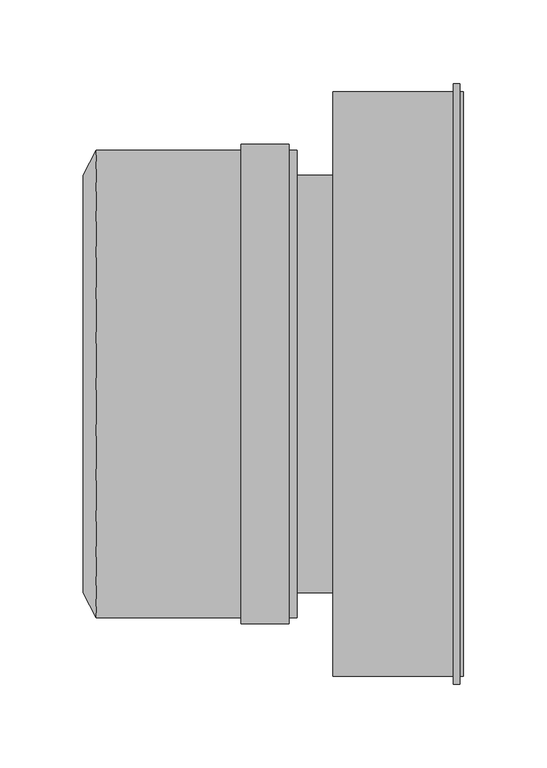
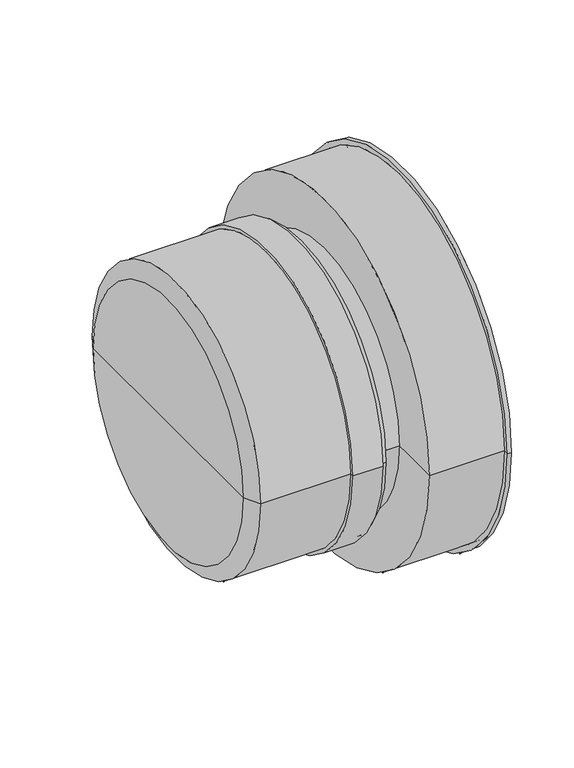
"""IFC4 building model written with IfcOpenShell, lengths in millimetres: pipe fitting geometry, pf_KGUS : pf_KGUS."""

from ifc_helpers import new_model, si_unit, point, frame, origin, origin_2d, place, context, project, spatial, polyline, circle_curve, trimmed, segment, composite_curve, outline, extrude, source, transform, mapped, element, save
from ifc_brep_helpers import plane_surface, cylinder_surface, revolved_surface, advanced_brep


def pipe_fitting_e6965fa8(model_context):
    return source(origin(), model_context, "Body", "SolidModel", [
        advanced_brep(
        [(-149.7, 125.0, 0.0), (-149.7, -125.0, 0.0), (-142.0, -140.1, 0.0), (-142.0, 140.1, 0.0), (-149.7, 0.0, 0.0), (-21.7, 140.1, 0.0), (-21.7, -140.1, 0.0), (-21.7, -125.0, 0.0), (-21.7, 125.0, 0.0), (-26.5, 140.1, 0.0), (-26.5, -140.1, 0.0), (-26.5, 143.5, 0.0), (-26.5, -143.5, 0.0), (-55.2, 143.5, 0.0), (-55.2, -143.5, 0.0), (-55.2, 140.1, 0.0), (-55.2, -140.1, 0.0), (-142.0, 125.0, 0.0), (-142.0, -125.0, 0.0), (-142.0, 0.0, 0.0)],
        [
            (0, 1, circle_curve(frame((-149.7, 0.0, 0.0), z_axis=(1.0, 0.0, 0.0), x_axis=(0.0, -1.0, 0.0)), 125.0)),
            (1, 2),
            (2, 3, circle_curve(frame((-142.0, 0.0, 0.0), z_axis=(-1.0, 0.0, 0.0), x_axis=(0.0, -1.0, 0.0)), 140.1)),
            (3, 0),
            (1, 0, circle_curve(frame((-149.7, 0.0, 0.0), z_axis=(1.0, 0.0, 0.0), x_axis=(0.0, -1.0, 0.0)), 125.0)),
            (3, 2, circle_curve(frame((-142.0, 0.0, 0.0), z_axis=(-1.0, 0.0, 0.0), x_axis=(0.0, -1.0, 0.0)), 140.1)),
            (4, 1),
            (0, 4),
            (5, 6, circle_curve(frame((-21.7, 0.0, 0.0), z_axis=(1.0, 0.0, 0.0), x_axis=(0.0, -1.0, 0.0)), 140.1)),
            (6, 7),
            (7, 8, circle_curve(frame((-21.7, 0.0, 0.0), z_axis=(-1.0, 0.0, 0.0), x_axis=(0.0, -1.0, 0.0)), 125.0)),
            (8, 5),
            (6, 5, circle_curve(frame((-21.7, 0.0, 0.0), z_axis=(1.0, 0.0, 0.0), x_axis=(0.0, -1.0, 0.0)), 140.1)),
            (8, 7, circle_curve(frame((-21.7, 0.0, 0.0), z_axis=(-1.0, 0.0, 0.0), x_axis=(0.0, -1.0, 0.0)), 125.0)),
            (9, 10, circle_curve(frame((-26.5, 0.0, 0.0), z_axis=(1.0, 0.0, 0.0), x_axis=(0.0, -1.0, 0.0)), 140.1)),
            (10, 6),
            (5, 9),
            (10, 9, circle_curve(frame((-26.5, 0.0, 0.0), z_axis=(1.0, 0.0, 0.0), x_axis=(0.0, -1.0, 0.0)), 140.1)),
            (11, 12, circle_curve(frame((-26.5, 0.0, 0.0), z_axis=(1.0, 0.0, 0.0), x_axis=(0.0, -1.0, 0.0)), 143.5)),
            (12, 10),
            (9, 11),
            (12, 11, circle_curve(frame((-26.5, 0.0, 0.0), z_axis=(1.0, 0.0, 0.0), x_axis=(0.0, -1.0, 0.0)), 143.5)),
            (13, 14, circle_curve(frame((-55.2, 0.0, 0.0), z_axis=(1.0, 0.0, 0.0), x_axis=(0.0, -1.0, 0.0)), 143.5)),
            (14, 12),
            (11, 13),
            (14, 13, circle_curve(frame((-55.2, 0.0, 0.0), z_axis=(1.0, 0.0, 0.0), x_axis=(0.0, -1.0, 0.0)), 143.5)),
            (15, 16, circle_curve(frame((-55.2, 0.0, 0.0), z_axis=(1.0, 0.0, 0.0), x_axis=(0.0, -1.0, 0.0)), 140.1)),
            (16, 14),
            (13, 15),
            (16, 15, circle_curve(frame((-55.2, 0.0, 0.0), z_axis=(1.0, 0.0, 0.0), x_axis=(0.0, -1.0, 0.0)), 140.1)),
            (2, 16),
            (15, 3),
            (17, 18, circle_curve(frame((-142.0, 0.0, 0.0), z_axis=(1.0, 0.0, 0.0), x_axis=(0.0, -1.0, 0.0)), 125.0)),
            (18, 19),
            (19, 17),
            (18, 17, circle_curve(frame((-142.0, 0.0, 0.0), z_axis=(1.0, 0.0, 0.0), x_axis=(0.0, -1.0, 0.0)), 125.0)),
            (7, 18),
            (17, 8),
        ],
        [
            revolved_surface(polyline([(-142.0, -140.1, 0.0), (-149.7, -125.0, 0.0)]), (-149.7, 0.0, 0.0), (-1.0, 0.0, 0.0)),
            plane_surface(frame((-149.7, 0.0, 0.0), z_axis=(-1.0, 0.0, 0.0), x_axis=(0.0, -1.0, 0.0))),
            plane_surface(frame((-21.7, 0.0, 0.0), z_axis=(1.0, 0.0, 0.0), x_axis=(0.0, -1.0, 0.0))),
            cylinder_surface(frame((-149.7, 0.0, 0.0), z_axis=(-1.0, 0.0, 0.0), x_axis=(0.0, -1.0, 0.0)), 140.1),
            plane_surface(frame((-26.5, 0.0, 0.0), z_axis=(1.0, 0.0, 0.0), x_axis=(0.0, -1.0, 0.0))),
            cylinder_surface(frame((-149.7, 0.0, 0.0), z_axis=(-1.0, 0.0, 0.0), x_axis=(0.0, -1.0, 0.0)), 143.5),
            plane_surface(frame((-55.2, 0.0, 0.0), z_axis=(-1.0, 0.0, 0.0), x_axis=(0.0, -1.0, 0.0))),
            plane_surface(frame((-142.0, 0.0, 0.0), z_axis=(1.0, 0.0, 0.0), x_axis=(0.0, -1.0, 0.0))),
            revolved_surface(polyline([(-142.0, -125.0, 0.0), (-21.700000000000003, -125.0, 0.0)]), (-149.7, 0.0, 0.0), (-1.0, 0.0, 0.0)),
        ],
        [
            (0, [[1, 2, 3, 4]]),
            (0, [[5, -4, 6, -2]]),
            (1, [[7, -1, 8]]),
            (1, [[-8, -5, -7]]),
            (2, [[9, 10, 11, 12]]),
            (2, [[13, -12, 14, -10]]),
            (3, [[15, 16, -9, 17]]),
            (3, [[18, -17, -13, -16]]),
            (4, [[19, 20, -15, 21]]),
            (4, [[22, -21, -18, -20]]),
            (5, [[23, 24, -19, 25]]),
            (5, [[26, -25, -22, -24]]),
            (6, [[27, 28, -23, 29]]),
            (6, [[30, -29, -26, -28]]),
            (3, [[-3, 31, -27, 32]]),
            (3, [[-6, -32, -30, -31]]),
            (7, [[33, 34, 35]]),
            (7, [[36, -35, -34]]),
            (8, [[-11, 37, -33, 38]]),
            (8, [[-14, -38, -36, -37]]),
        ],
    ),
        extrude(outline(composite_curve([segment(trimmed(circle_curve(origin_2d(), 125.0), [point((-125.0, 0.0))], [point((125.0, 0.0))], False, "CARTESIAN"), True, "CONTINUOUS"), segment(trimmed(circle_curve(origin_2d(), 125.0), [point((125.0, 0.0))], [point((-125.0, 0.0))], False, "CARTESIAN"), True, "CONTINUOUS")], self_intersect=False)), frame((-21.7, 0.0, 0.0), z_axis=(1.0, 0.0, 0.0), x_axis=(0.0, 1.0, 0.0)), (0.0, 0.0, 1.0), 21.7),
        advanced_brep(
        [(78.0, -171.0, 0.0), (78.0, 171.0, 0.0), (30.0, 171.0, 0.0), (30.0, -171.0, 0.0), (76.0, -175.0, 0.0), (76.0, 175.0, 0.0), (78.0, 175.0, 0.0), (78.0, -175.0, 0.0), (0.0, 0.0, 0.0), (0.0, 175.0, 0.0), (0.0, -175.0, 0.0), (30.0, 0.0, 0.0), (72.0, -180.0, 0.0), (72.0, 180.0, 0.0), (76.0, 180.0, 0.0), (76.0, -180.0, 0.0), (72.0, 175.0, 0.0), (72.0, -175.0, 0.0)],
        [
            (0, 1, circle_curve(frame((78.0, 0.0, 0.0), z_axis=(1.0, 0.0, 0.0), x_axis=(0.0, 1.0, 0.0)), 171.0)),
            (1, 2),
            (2, 3, circle_curve(frame((30.0, 0.0, 0.0), z_axis=(-1.0, 0.0, 0.0), x_axis=(0.0, 1.0, 0.0)), 171.0)),
            (3, 0),
            (4, 5, circle_curve(frame((76.0, 0.0, 0.0), z_axis=(1.0, 0.0, 0.0), x_axis=(0.0, 1.0, 0.0)), 175.0)),
            (5, 6),
            (6, 7, circle_curve(frame((78.0, 0.0, 0.0), z_axis=(-1.0, 0.0, 0.0), x_axis=(0.0, 1.0, 0.0)), 175.0)),
            (7, 4),
            (8, 9),
            (9, 10, circle_curve(frame((0.0, 0.0, 0.0), z_axis=(-1.0, 0.0, 0.0), x_axis=(0.0, 1.0, 0.0)), 175.0)),
            (10, 8),
            (1, 0, circle_curve(frame((78.0, 0.0, 0.0), z_axis=(1.0, 0.0, 0.0), x_axis=(0.0, 1.0, 0.0)), 171.0)),
            (3, 2, circle_curve(frame((30.0, 0.0, 0.0), z_axis=(-1.0, 0.0, 0.0), x_axis=(0.0, 1.0, 0.0)), 171.0)),
            (5, 4, circle_curve(frame((76.0, 0.0, 0.0), z_axis=(1.0, 0.0, 0.0), x_axis=(0.0, 1.0, 0.0)), 175.0)),
            (7, 6, circle_curve(frame((78.0, 0.0, 0.0), z_axis=(-1.0, 0.0, 0.0), x_axis=(0.0, 1.0, 0.0)), 175.0)),
            (10, 9, circle_curve(frame((0.0, 0.0, 0.0), z_axis=(-1.0, 0.0, 0.0), x_axis=(0.0, 1.0, 0.0)), 175.0)),
            (2, 11),
            (11, 3),
            (6, 1),
            (0, 7),
            (12, 13, circle_curve(frame((72.0, 0.0, 0.0), z_axis=(1.0, 0.0, 0.0), x_axis=(0.0, 1.0, 0.0)), 180.0)),
            (13, 14),
            (14, 15, circle_curve(frame((76.0, 0.0, 0.0), z_axis=(-1.0, 0.0, 0.0), x_axis=(0.0, 1.0, 0.0)), 180.0)),
            (15, 12),
            (13, 12, circle_curve(frame((72.0, 0.0, 0.0), z_axis=(1.0, 0.0, 0.0), x_axis=(0.0, 1.0, 0.0)), 180.0)),
            (15, 14, circle_curve(frame((76.0, 0.0, 0.0), z_axis=(-1.0, 0.0, 0.0), x_axis=(0.0, 1.0, 0.0)), 180.0)),
            (9, 16),
            (16, 17, circle_curve(frame((72.0, 0.0, 0.0), z_axis=(-1.0, 0.0, 0.0), x_axis=(0.0, 1.0, 0.0)), 175.0)),
            (17, 10),
            (17, 16, circle_curve(frame((72.0, 0.0, 0.0), z_axis=(-1.0, 0.0, 0.0), x_axis=(0.0, 1.0, 0.0)), 175.0)),
            (14, 5),
            (4, 15),
            (16, 13),
            (12, 17),
        ],
        [
            revolved_surface(polyline([(30.0, 171.0, 0.0), (78.0, 171.0, 0.0)]), (81.0, 0.0, 0.0), (-1.0, 0.0, 0.0)),
            cylinder_surface(frame((81.0, 0.0, 0.0), z_axis=(-1.0, 0.0, 0.0), x_axis=(0.0, 1.0, 0.0)), 175.0),
            plane_surface(frame((0.0, 0.0, 0.0), z_axis=(-1.0, 0.0, 0.0), x_axis=(0.0, 1.0, 0.0))),
            plane_surface(frame((30.0, 0.0, 0.0), z_axis=(1.0, 0.0, 0.0), x_axis=(0.0, 1.0, 0.0))),
            plane_surface(frame((78.0, 0.0, 0.0), z_axis=(1.0, 0.0, 0.0), x_axis=(0.0, 1.0, 0.0))),
            cylinder_surface(frame((81.0, 0.0, 0.0), z_axis=(-1.0, 0.0, 0.0), x_axis=(0.0, 1.0, 0.0)), 180.0),
            plane_surface(frame((76.0, 0.0, 0.0), z_axis=(1.0, 0.0, 0.0), x_axis=(0.0, 1.0, 0.0))),
            plane_surface(frame((72.0, 0.0, 0.0), z_axis=(-1.0, 0.0, 0.0), x_axis=(0.0, 1.0, 0.0))),
        ],
        [
            (0, [[1, 2, 3, 4]]),
            (1, [[5, 6, 7, 8]]),
            (2, [[9, 10, 11]]),
            (0, [[12, -4, 13, -2]]),
            (1, [[14, -8, 15, -6]]),
            (2, [[-11, 16, -9]]),
            (3, [[-3, 17, 18]]),
            (3, [[-13, -18, -17]]),
            (4, [[-7, 19, -1, 20]]),
            (4, [[-15, -20, -12, -19]]),
            (5, [[21, 22, 23, 24]]),
            (5, [[25, -24, 26, -22]]),
            (1, [[-10, 27, 28, 29]]),
            (1, [[-16, -29, 30, -27]]),
            (6, [[-23, 31, -5, 32]]),
            (6, [[-26, -32, -14, -31]]),
            (7, [[-28, 33, -21, 34]]),
            (7, [[-30, -34, -25, -33]]),
        ],
    ),
    ])


if __name__ == "__main__":
    model = new_model("IFC4")
    model_context = context("Model", 3, world=origin())
    ifc_project = project(units=[si_unit("LENGTHUNIT", "METRE", prefix="MILLI")], contexts=[model_context])
    site = spatial("IfcSite", under=ifc_project)
    building = spatial("IfcBuilding", under=site)
    placement = place(None, origin())
    pipe_fitting_shape = pipe_fitting_e6965fa8(model_context)
    element("IfcPipeFitting", 1, ObjectType="pf_KGUS : pf_KGUS", at=placement, inside=building, context=model_context, shape_type="MappedRepresentation", body=[
        mapped(pipe_fitting_shape, transform((0.0, 0.0, 0.0), x_axis=(1.0, 0.0, 0.0), y_axis=(0.0, 1.0, 0.0), z_axis=(0.0, 0.0, 1.0))),
    ])
    save(model, "model.ifc")
